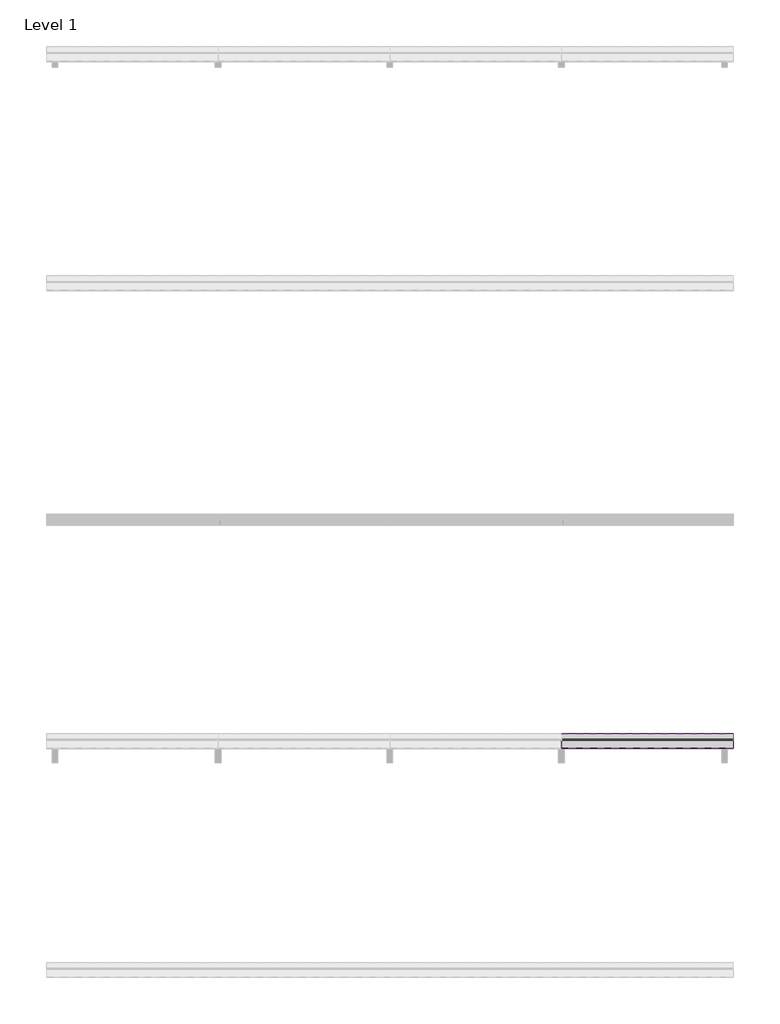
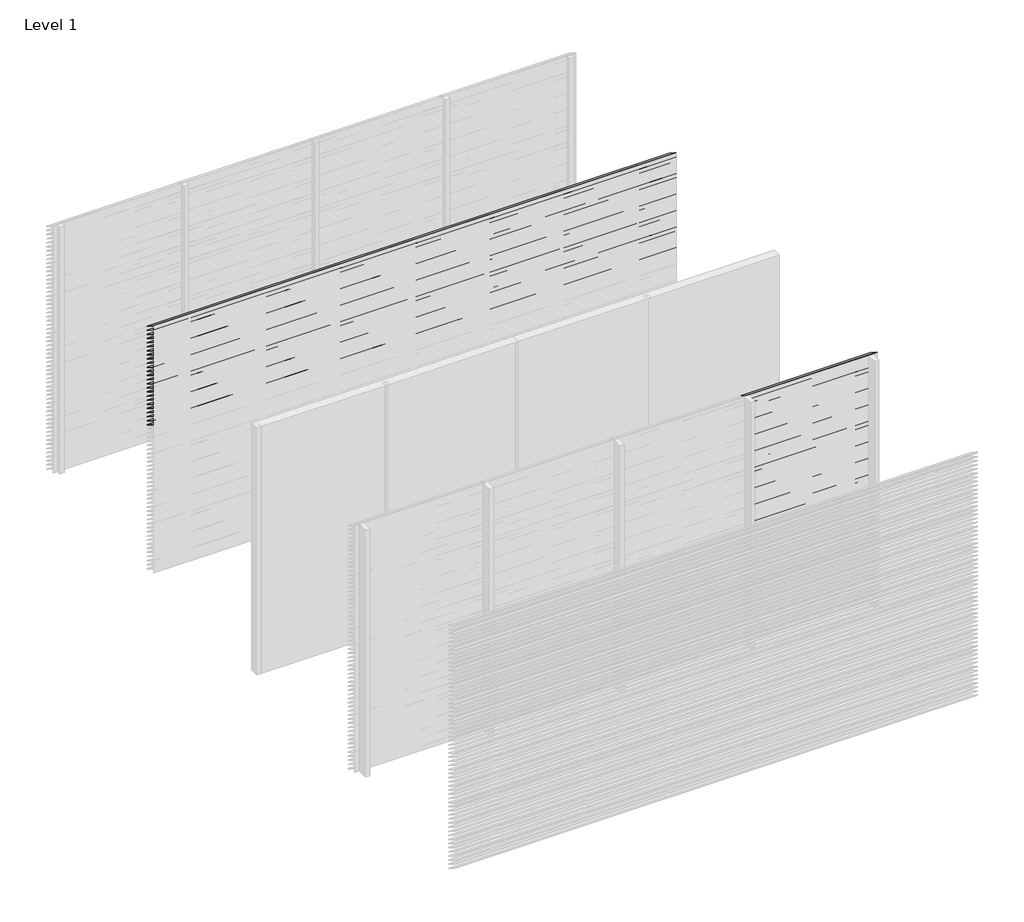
# One storey, part 4 of 13: 95 proxies.
"""IFC4 building model written with IfcOpenShell, lengths in millimetres."""

from ifc_helpers import new_model, si_unit, frame, origin, place, context, project, spatial, polyline, outline, extrude, element, save

model = new_model("IFC4")

# Units and contexts
model_context = context("Model", 3, world=origin())
ifc_project = project(units=[si_unit("LENGTHUNIT", "METRE", prefix="MILLI")], contexts=[model_context])

# Site, building, storey
site = spatial("IfcSite", under=ifc_project)
building = spatial("IfcBuilding", under=site)
storey = spatial("IfcBuildingStorey", under=building, Name="Level 1", Elevation=0.0)

# Proxies
placement = place(None, origin())
element("IfcBuildingElementProxy", 1, Name="Wall Sweeps", at=placement, inside=storey, context=model_context, shape_type="SweptSolid", body=[
    extrude(outline(polyline([(-13995.0, 3000.0), (-13995.0, 2998.0), (-13868.0, 2919.0), (-13868.0, 2913.0), (-13997.0, 2993.2440945), (-13997.0, 3000.0), (-13995.0, 3000.0)])), frame((0.0, 0.0, 0.0), z_axis=(1.0, 0.0, 0.0), x_axis=(0.0, 1.0, 0.0)), (0.0, 0.0, 1.0), 6000.0),
])
element("IfcBuildingElementProxy", 2, Name="Wall Sweeps", at=placement, inside=storey, context=model_context, shape_type="SweptSolid", body=[
    extrude(outline(polyline([(-13995.0, 2950.0), (-13995.0, 2948.0), (-13868.0, 2869.0), (-13868.0, 2863.0), (-13997.0, 2943.2440945), (-13997.0, 2950.0), (-13995.0, 2950.0)])), frame((0.0, 0.0, 0.0), z_axis=(1.0, 0.0, 0.0), x_axis=(0.0, 1.0, 0.0)), (0.0, 0.0, 1.0), 6000.0),
])
element("IfcBuildingElementProxy", 3, Name="Wall Sweeps", at=placement, inside=storey, context=model_context, shape_type="SweptSolid", body=[
    extrude(outline(polyline([(-13995.0, 2900.0), (-13995.0, 2898.0), (-13868.0, 2819.0), (-13868.0, 2813.0), (-13997.0, 2893.2440945), (-13997.0, 2900.0), (-13995.0, 2900.0)])), frame((0.0, 0.0, 0.0), z_axis=(1.0, 0.0, 0.0), x_axis=(0.0, 1.0, 0.0)), (0.0, 0.0, 1.0), 6000.0),
])
element("IfcBuildingElementProxy", 4, Name="Wall Sweeps", at=placement, inside=storey, context=model_context, shape_type="SweptSolid", body=[
    extrude(outline(polyline([(-13995.0, 2850.0), (-13995.0, 2848.0), (-13868.0, 2769.0), (-13868.0, 2763.0), (-13997.0, 2843.2440945), (-13997.0, 2850.0), (-13995.0, 2850.0)])), frame((0.0, 0.0, 0.0), z_axis=(1.0, 0.0, 0.0), x_axis=(0.0, 1.0, 0.0)), (0.0, 0.0, 1.0), 6000.0),
])
element("IfcBuildingElementProxy", 5, Name="Wall Sweeps", at=placement, inside=storey, context=model_context, shape_type="SweptSolid", body=[
    extrude(outline(polyline([(-13995.0, 2800.0), (-13995.0, 2798.0), (-13868.0, 2719.0), (-13868.0, 2713.0), (-13997.0, 2793.2440945), (-13997.0, 2800.0), (-13995.0, 2800.0)])), frame((0.0, 0.0, 0.0), z_axis=(1.0, 0.0, 0.0), x_axis=(0.0, 1.0, 0.0)), (0.0, 0.0, 1.0), 6000.0),
])
element("IfcBuildingElementProxy", 6, Name="Wall Sweeps", at=placement, inside=storey, context=model_context, shape_type="SweptSolid", body=[
    extrude(outline(polyline([(-13995.0, 2750.0), (-13995.0, 2748.0), (-13868.0, 2669.0), (-13868.0, 2663.0), (-13997.0, 2743.2440945), (-13997.0, 2750.0), (-13995.0, 2750.0)])), frame((0.0, 0.0, 0.0), z_axis=(1.0, 0.0, 0.0), x_axis=(0.0, 1.0, 0.0)), (0.0, 0.0, 1.0), 6000.0),
])
element("IfcBuildingElementProxy", 7, Name="Wall Sweeps", at=placement, inside=storey, context=model_context, shape_type="SweptSolid", body=[
    extrude(outline(polyline([(-13995.0, 2700.0), (-13995.0, 2698.0), (-13868.0, 2619.0), (-13868.0, 2613.0), (-13997.0, 2693.2440945), (-13997.0, 2700.0), (-13995.0, 2700.0)])), frame((0.0, 0.0, 0.0), z_axis=(1.0, 0.0, 0.0), x_axis=(0.0, 1.0, 0.0)), (0.0, 0.0, 1.0), 6000.0),
])
element("IfcBuildingElementProxy", 8, Name="Wall Sweeps", at=placement, inside=storey, context=model_context, shape_type="SweptSolid", body=[
    extrude(outline(polyline([(-13995.0, 2650.0), (-13995.0, 2648.0), (-13868.0, 2569.0), (-13868.0, 2563.0), (-13997.0, 2643.2440945), (-13997.0, 2650.0), (-13995.0, 2650.0)])), frame((0.0, 0.0, 0.0), z_axis=(1.0, 0.0, 0.0), x_axis=(0.0, 1.0, 0.0)), (0.0, 0.0, 1.0), 6000.0),
])
element("IfcBuildingElementProxy", 9, Name="Wall Sweeps", at=placement, inside=storey, context=model_context, shape_type="SweptSolid", body=[
    extrude(outline(polyline([(-13995.0, 2600.0), (-13995.0, 2598.0), (-13868.0, 2519.0), (-13868.0, 2513.0), (-13997.0, 2593.2440945), (-13997.0, 2600.0), (-13995.0, 2600.0)])), frame((0.0, 0.0, 0.0), z_axis=(1.0, 0.0, 0.0), x_axis=(0.0, 1.0, 0.0)), (0.0, 0.0, 1.0), 6000.0),
])
element("IfcBuildingElementProxy", 10, Name="Wall Sweeps", at=placement, inside=storey, context=model_context, shape_type="SweptSolid", body=[
    extrude(outline(polyline([(-13995.0, 2550.0), (-13995.0, 2548.0), (-13868.0, 2469.0), (-13868.0, 2463.0), (-13997.0, 2543.2440945), (-13997.0, 2550.0), (-13995.0, 2550.0)])), frame((0.0, 0.0, 0.0), z_axis=(1.0, 0.0, 0.0), x_axis=(0.0, 1.0, 0.0)), (0.0, 0.0, 1.0), 6000.0),
])
element("IfcBuildingElementProxy", 11, Name="Wall Sweeps", at=placement, inside=storey, context=model_context, shape_type="SweptSolid", body=[
    extrude(outline(polyline([(-13995.0, 2500.0), (-13995.0, 2498.0), (-13868.0, 2419.0), (-13868.0, 2413.0), (-13997.0, 2493.2440945), (-13997.0, 2500.0), (-13995.0, 2500.0)])), frame((0.0, 0.0, 0.0), z_axis=(1.0, 0.0, 0.0), x_axis=(0.0, 1.0, 0.0)), (0.0, 0.0, 1.0), 6000.0),
])
element("IfcBuildingElementProxy", 12, Name="Wall Sweeps", at=placement, inside=storey, context=model_context, shape_type="SweptSolid", body=[
    extrude(outline(polyline([(-13995.0, 2450.0), (-13995.0, 2448.0), (-13868.0, 2369.0), (-13868.0, 2363.0), (-13997.0, 2443.2440945), (-13997.0, 2450.0), (-13995.0, 2450.0)])), frame((0.0, 0.0, 0.0), z_axis=(1.0, 0.0, 0.0), x_axis=(0.0, 1.0, 0.0)), (0.0, 0.0, 1.0), 6000.0),
])
element("IfcBuildingElementProxy", 13, Name="Wall Sweeps", at=placement, inside=storey, context=model_context, shape_type="SweptSolid", body=[
    extrude(outline(polyline([(-13995.0, 2400.0), (-13995.0, 2398.0), (-13868.0, 2319.0), (-13868.0, 2313.0), (-13997.0, 2393.2440945), (-13997.0, 2400.0), (-13995.0, 2400.0)])), frame((0.0, 0.0, 0.0), z_axis=(1.0, 0.0, 0.0), x_axis=(0.0, 1.0, 0.0)), (0.0, 0.0, 1.0), 6000.0),
])
element("IfcBuildingElementProxy", 14, Name="Wall Sweeps", at=placement, inside=storey, context=model_context, shape_type="SweptSolid", body=[
    extrude(outline(polyline([(-13995.0, 2350.0), (-13995.0, 2348.0), (-13868.0, 2269.0), (-13868.0, 2263.0), (-13997.0, 2343.2440945), (-13997.0, 2350.0), (-13995.0, 2350.0)])), frame((0.0, 0.0, 0.0), z_axis=(1.0, 0.0, 0.0), x_axis=(0.0, 1.0, 0.0)), (0.0, 0.0, 1.0), 6000.0),
])
element("IfcBuildingElementProxy", 15, Name="Wall Sweeps", at=placement, inside=storey, context=model_context, shape_type="SweptSolid", body=[
    extrude(outline(polyline([(-13995.0, 2300.0), (-13995.0, 2298.0), (-13868.0, 2219.0), (-13868.0, 2213.0), (-13997.0, 2293.2440945), (-13997.0, 2300.0), (-13995.0, 2300.0)])), frame((0.0, 0.0, 0.0), z_axis=(1.0, 0.0, 0.0), x_axis=(0.0, 1.0, 0.0)), (0.0, 0.0, 1.0), 6000.0),
])
element("IfcBuildingElementProxy", 16, Name="Wall Sweeps", at=placement, inside=storey, context=model_context, shape_type="SweptSolid", body=[
    extrude(outline(polyline([(-13995.0, 2250.0), (-13995.0, 2248.0), (-13868.0, 2169.0), (-13868.0, 2163.0), (-13997.0, 2243.2440945), (-13997.0, 2250.0), (-13995.0, 2250.0)])), frame((0.0, 0.0, 0.0), z_axis=(1.0, 0.0, 0.0), x_axis=(0.0, 1.0, 0.0)), (0.0, 0.0, 1.0), 6000.0),
])
element("IfcBuildingElementProxy", 17, Name="Wall Sweeps", at=placement, inside=storey, context=model_context, shape_type="SweptSolid", body=[
    extrude(outline(polyline([(-13995.0, 2200.0), (-13995.0, 2198.0), (-13868.0, 2119.0), (-13868.0, 2113.0), (-13997.0, 2193.2440945), (-13997.0, 2200.0), (-13995.0, 2200.0)])), frame((0.0, 0.0, 0.0), z_axis=(1.0, 0.0, 0.0), x_axis=(0.0, 1.0, 0.0)), (0.0, 0.0, 1.0), 6000.0),
])
element("IfcBuildingElementProxy", 18, Name="Wall Sweeps", at=placement, inside=storey, context=model_context, shape_type="SweptSolid", body=[
    extrude(outline(polyline([(-13995.0, 2150.0), (-13995.0, 2148.0), (-13868.0, 2069.0), (-13868.0, 2063.0), (-13997.0, 2143.2440945), (-13997.0, 2150.0), (-13995.0, 2150.0)])), frame((0.0, 0.0, 0.0), z_axis=(1.0, 0.0, 0.0), x_axis=(0.0, 1.0, 0.0)), (0.0, 0.0, 1.0), 6000.0),
])
element("IfcBuildingElementProxy", 19, Name="Wall Sweeps", at=placement, inside=storey, context=model_context, shape_type="SweptSolid", body=[
    extrude(outline(polyline([(-13995.0, 2100.0), (-13995.0, 2098.0), (-13868.0, 2019.0), (-13868.0, 2013.0), (-13997.0, 2093.2440945), (-13997.0, 2100.0), (-13995.0, 2100.0)])), frame((0.0, 0.0, 0.0), z_axis=(1.0, 0.0, 0.0), x_axis=(0.0, 1.0, 0.0)), (0.0, 0.0, 1.0), 6000.0),
])
element("IfcBuildingElementProxy", 20, Name="Wall Sweeps", at=placement, inside=storey, context=model_context, shape_type="SweptSolid", body=[
    extrude(outline(polyline([(-13995.0, 2050.0), (-13995.0, 2048.0), (-13868.0, 1969.0), (-13868.0, 1963.0), (-13997.0, 2043.2440945), (-13997.0, 2050.0), (-13995.0, 2050.0)])), frame((0.0, 0.0, 0.0), z_axis=(1.0, 0.0, 0.0), x_axis=(0.0, 1.0, 0.0)), (0.0, 0.0, 1.0), 6000.0),
])
element("IfcBuildingElementProxy", 21, Name="Wall Sweeps", at=placement, inside=storey, context=model_context, shape_type="SweptSolid", body=[
    extrude(outline(polyline([(-13995.0, 2000.0), (-13995.0, 1998.0), (-13868.0, 1919.0), (-13868.0, 1913.0), (-13997.0, 1993.2440945), (-13997.0, 2000.0), (-13995.0, 2000.0)])), frame((0.0, 0.0, 0.0), z_axis=(1.0, 0.0, 0.0), x_axis=(0.0, 1.0, 0.0)), (0.0, 0.0, 1.0), 6000.0),
])
element("IfcBuildingElementProxy", 22, Name="Wall Sweeps", at=placement, inside=storey, context=model_context, shape_type="SweptSolid", body=[
    extrude(outline(polyline([(-13995.0, 1950.0), (-13995.0, 1948.0), (-13868.0, 1869.0), (-13868.0, 1863.0), (-13997.0, 1943.2440945), (-13997.0, 1950.0), (-13995.0, 1950.0)])), frame((0.0, 0.0, 0.0), z_axis=(1.0, 0.0, 0.0), x_axis=(0.0, 1.0, 0.0)), (0.0, 0.0, 1.0), 6000.0),
])
element("IfcBuildingElementProxy", 23, Name="Wall Sweeps", at=placement, inside=storey, context=model_context, shape_type="SweptSolid", body=[
    extrude(outline(polyline([(-13995.0, 1900.0), (-13995.0, 1898.0), (-13868.0, 1819.0), (-13868.0, 1813.0), (-13997.0, 1893.2440945), (-13997.0, 1900.0), (-13995.0, 1900.0)])), frame((0.0, 0.0, 0.0), z_axis=(1.0, 0.0, 0.0), x_axis=(0.0, 1.0, 0.0)), (0.0, 0.0, 1.0), 6000.0),
])
element("IfcBuildingElementProxy", 24, Name="Wall Sweeps", at=placement, inside=storey, context=model_context, shape_type="SweptSolid", body=[
    extrude(outline(polyline([(-13995.0, 1850.0), (-13995.0, 1848.0), (-13868.0, 1769.0), (-13868.0, 1763.0), (-13997.0, 1843.2440945), (-13997.0, 1850.0), (-13995.0, 1850.0)])), frame((0.0, 0.0, 0.0), z_axis=(1.0, 0.0, 0.0), x_axis=(0.0, 1.0, 0.0)), (0.0, 0.0, 1.0), 6000.0),
])
element("IfcBuildingElementProxy", 25, Name="Wall Sweeps", at=placement, inside=storey, context=model_context, shape_type="SweptSolid", body=[
    extrude(outline(polyline([(-13995.0, 1800.0), (-13995.0, 1798.0), (-13868.0, 1719.0), (-13868.0, 1713.0), (-13997.0, 1793.2440945), (-13997.0, 1800.0), (-13995.0, 1800.0)])), frame((0.0, 0.0, 0.0), z_axis=(1.0, 0.0, 0.0), x_axis=(0.0, 1.0, 0.0)), (0.0, 0.0, 1.0), 6000.0),
])
element("IfcBuildingElementProxy", 26, Name="Wall Sweeps", at=placement, inside=storey, context=model_context, shape_type="SweptSolid", body=[
    extrude(outline(polyline([(-17995.0, 3000.0), (-17995.0, 2998.0), (-17868.0, 2919.0), (-17868.0, 2913.0), (-17997.0, 2993.2440945), (-17997.0, 3000.0), (-17995.0, 3000.0)])), frame((4499.9999998, 0.0, 0.0), z_axis=(1.0, 0.0, 0.0), x_axis=(0.0, 1.0, 0.0)), (0.0, 0.0, 1.0), 1500.0000002),
])
element("IfcBuildingElementProxy", 27, Name="Wall Sweeps", at=placement, inside=storey, context=model_context, shape_type="SweptSolid", body=[
    extrude(outline(polyline([(-17995.0, 2950.0), (-17995.0, 2948.0), (-17868.0, 2869.0), (-17868.0, 2863.0), (-17997.0, 2943.2440945), (-17997.0, 2950.0), (-17995.0, 2950.0)])), frame((4499.9999998, 0.0, 0.0), z_axis=(1.0, 0.0, 0.0), x_axis=(0.0, 1.0, 0.0)), (0.0, 0.0, 1.0), 1500.0000002),
])
element("IfcBuildingElementProxy", 28, Name="Wall Sweeps", at=placement, inside=storey, context=model_context, shape_type="SweptSolid", body=[
    extrude(outline(polyline([(-17995.0, 2900.0), (-17995.0, 2898.0), (-17868.0, 2819.0), (-17868.0, 2813.0), (-17997.0, 2893.2440945), (-17997.0, 2900.0), (-17995.0, 2900.0)])), frame((4499.9999998, 0.0, 0.0), z_axis=(1.0, 0.0, 0.0), x_axis=(0.0, 1.0, 0.0)), (0.0, 0.0, 1.0), 1500.0000002),
])
element("IfcBuildingElementProxy", 29, Name="Wall Sweeps", at=placement, inside=storey, context=model_context, shape_type="SweptSolid", body=[
    extrude(outline(polyline([(-17995.0, 2850.0), (-17995.0, 2848.0), (-17868.0, 2769.0), (-17868.0, 2763.0), (-17997.0, 2843.2440945), (-17997.0, 2850.0), (-17995.0, 2850.0)])), frame((4499.9999998, 0.0, 0.0), z_axis=(1.0, 0.0, 0.0), x_axis=(0.0, 1.0, 0.0)), (0.0, 0.0, 1.0), 1500.0000002),
])
element("IfcBuildingElementProxy", 30, Name="Wall Sweeps", at=placement, inside=storey, context=model_context, shape_type="SweptSolid", body=[
    extrude(outline(polyline([(-17995.0, 2800.0), (-17995.0, 2798.0), (-17868.0, 2719.0), (-17868.0, 2713.0), (-17997.0, 2793.2440945), (-17997.0, 2800.0), (-17995.0, 2800.0)])), frame((4499.9999998, 0.0, 0.0), z_axis=(1.0, 0.0, 0.0), x_axis=(0.0, 1.0, 0.0)), (0.0, 0.0, 1.0), 1500.0000002),
])
element("IfcBuildingElementProxy", 31, Name="Wall Sweeps", at=placement, inside=storey, context=model_context, shape_type="SweptSolid", body=[
    extrude(outline(polyline([(-17995.0, 2750.0), (-17995.0, 2748.0), (-17868.0, 2669.0), (-17868.0, 2663.0), (-17997.0, 2743.2440945), (-17997.0, 2750.0), (-17995.0, 2750.0)])), frame((4499.9999998, 0.0, 0.0), z_axis=(1.0, 0.0, 0.0), x_axis=(0.0, 1.0, 0.0)), (0.0, 0.0, 1.0), 1500.0000002),
])
element("IfcBuildingElementProxy", 32, Name="Wall Sweeps", at=placement, inside=storey, context=model_context, shape_type="SweptSolid", body=[
    extrude(outline(polyline([(-17995.0, 2700.0), (-17995.0, 2698.0), (-17868.0, 2619.0), (-17868.0, 2613.0), (-17997.0, 2693.2440945), (-17997.0, 2700.0), (-17995.0, 2700.0)])), frame((4499.9999998, 0.0, 0.0), z_axis=(1.0, 0.0, 0.0), x_axis=(0.0, 1.0, 0.0)), (0.0, 0.0, 1.0), 1500.0000002),
])
element("IfcBuildingElementProxy", 33, Name="Wall Sweeps", at=placement, inside=storey, context=model_context, shape_type="SweptSolid", body=[
    extrude(outline(polyline([(-17995.0, 2650.0), (-17995.0, 2648.0), (-17868.0, 2569.0), (-17868.0, 2563.0), (-17997.0, 2643.2440945), (-17997.0, 2650.0), (-17995.0, 2650.0)])), frame((4499.9999998, 0.0, 0.0), z_axis=(1.0, 0.0, 0.0), x_axis=(0.0, 1.0, 0.0)), (0.0, 0.0, 1.0), 1500.0000002),
])
element("IfcBuildingElementProxy", 34, Name="Wall Sweeps", at=placement, inside=storey, context=model_context, shape_type="SweptSolid", body=[
    extrude(outline(polyline([(-17995.0, 2600.0), (-17995.0, 2598.0), (-17868.0, 2519.0), (-17868.0, 2513.0), (-17997.0, 2593.2440945), (-17997.0, 2600.0), (-17995.0, 2600.0)])), frame((4499.9999998, 0.0, 0.0), z_axis=(1.0, 0.0, 0.0), x_axis=(0.0, 1.0, 0.0)), (0.0, 0.0, 1.0), 1500.0000002),
])
element("IfcBuildingElementProxy", 35, Name="Wall Sweeps", at=placement, inside=storey, context=model_context, shape_type="SweptSolid", body=[
    extrude(outline(polyline([(-17995.0, 2550.0), (-17995.0, 2548.0), (-17868.0, 2469.0), (-17868.0, 2463.0), (-17997.0, 2543.2440945), (-17997.0, 2550.0), (-17995.0, 2550.0)])), frame((4499.9999998, 0.0, 0.0), z_axis=(1.0, 0.0, 0.0), x_axis=(0.0, 1.0, 0.0)), (0.0, 0.0, 1.0), 1500.0000002),
])
element("IfcBuildingElementProxy", 36, Name="Wall Sweeps", at=placement, inside=storey, context=model_context, shape_type="SweptSolid", body=[
    extrude(outline(polyline([(-17995.0, 2500.0), (-17995.0, 2498.0), (-17868.0, 2419.0), (-17868.0, 2413.0), (-17997.0, 2493.2440945), (-17997.0, 2500.0), (-17995.0, 2500.0)])), frame((4499.9999998, 0.0, 0.0), z_axis=(1.0, 0.0, 0.0), x_axis=(0.0, 1.0, 0.0)), (0.0, 0.0, 1.0), 1500.0000002),
])
element("IfcBuildingElementProxy", 37, Name="Wall Sweeps", at=placement, inside=storey, context=model_context, shape_type="SweptSolid", body=[
    extrude(outline(polyline([(-17995.0, 2450.0), (-17995.0, 2448.0), (-17868.0, 2369.0), (-17868.0, 2363.0), (-17997.0, 2443.2440945), (-17997.0, 2450.0), (-17995.0, 2450.0)])), frame((4499.9999998, 0.0, 0.0), z_axis=(1.0, 0.0, 0.0), x_axis=(0.0, 1.0, 0.0)), (0.0, 0.0, 1.0), 1500.0000002),
])
element("IfcBuildingElementProxy", 38, Name="Wall Sweeps", at=placement, inside=storey, context=model_context, shape_type="SweptSolid", body=[
    extrude(outline(polyline([(-17995.0, 2400.0), (-17995.0, 2398.0), (-17868.0, 2319.0), (-17868.0, 2313.0), (-17997.0, 2393.2440945), (-17997.0, 2400.0), (-17995.0, 2400.0)])), frame((4499.9999998, 0.0, 0.0), z_axis=(1.0, 0.0, 0.0), x_axis=(0.0, 1.0, 0.0)), (0.0, 0.0, 1.0), 1500.0000002),
])
element("IfcBuildingElementProxy", 39, Name="Wall Sweeps", at=placement, inside=storey, context=model_context, shape_type="SweptSolid", body=[
    extrude(outline(polyline([(-17995.0, 2350.0), (-17995.0, 2348.0), (-17868.0, 2269.0), (-17868.0, 2263.0), (-17997.0, 2343.2440945), (-17997.0, 2350.0), (-17995.0, 2350.0)])), frame((4499.9999998, 0.0, 0.0), z_axis=(1.0, 0.0, 0.0), x_axis=(0.0, 1.0, 0.0)), (0.0, 0.0, 1.0), 1500.0000002),
])
element("IfcBuildingElementProxy", 40, Name="Wall Sweeps", at=placement, inside=storey, context=model_context, shape_type="SweptSolid", body=[
    extrude(outline(polyline([(-17995.0, 2300.0), (-17995.0, 2298.0), (-17868.0, 2219.0), (-17868.0, 2213.0), (-17997.0, 2293.2440945), (-17997.0, 2300.0), (-17995.0, 2300.0)])), frame((4499.9999998, 0.0, 0.0), z_axis=(1.0, 0.0, 0.0), x_axis=(0.0, 1.0, 0.0)), (0.0, 0.0, 1.0), 1500.0000002),
])
element("IfcBuildingElementProxy", 41, Name="Wall Sweeps", at=placement, inside=storey, context=model_context, shape_type="SweptSolid", body=[
    extrude(outline(polyline([(-17995.0, 2250.0), (-17995.0, 2248.0), (-17868.0, 2169.0), (-17868.0, 2163.0), (-17997.0, 2243.2440945), (-17997.0, 2250.0), (-17995.0, 2250.0)])), frame((4499.9999998, 0.0, 0.0), z_axis=(1.0, 0.0, 0.0), x_axis=(0.0, 1.0, 0.0)), (0.0, 0.0, 1.0), 1500.0000002),
])
element("IfcBuildingElementProxy", 42, Name="Wall Sweeps", at=placement, inside=storey, context=model_context, shape_type="SweptSolid", body=[
    extrude(outline(polyline([(-17995.0, 2200.0), (-17995.0, 2198.0), (-17868.0, 2119.0), (-17868.0, 2113.0), (-17997.0, 2193.2440945), (-17997.0, 2200.0), (-17995.0, 2200.0)])), frame((4499.9999998, 0.0, 0.0), z_axis=(1.0, 0.0, 0.0), x_axis=(0.0, 1.0, 0.0)), (0.0, 0.0, 1.0), 1500.0000002),
])
element("IfcBuildingElementProxy", 43, Name="Wall Sweeps", at=placement, inside=storey, context=model_context, shape_type="SweptSolid", body=[
    extrude(outline(polyline([(-17995.0, 2150.0), (-17995.0, 2148.0), (-17868.0, 2069.0), (-17868.0, 2063.0), (-17997.0, 2143.2440945), (-17997.0, 2150.0), (-17995.0, 2150.0)])), frame((4499.9999998, 0.0, 0.0), z_axis=(1.0, 0.0, 0.0), x_axis=(0.0, 1.0, 0.0)), (0.0, 0.0, 1.0), 1500.0000002),
])
element("IfcBuildingElementProxy", 44, Name="Wall Sweeps", at=placement, inside=storey, context=model_context, shape_type="SweptSolid", body=[
    extrude(outline(polyline([(-17995.0, 2100.0), (-17995.0, 2098.0), (-17868.0, 2019.0), (-17868.0, 2013.0), (-17997.0, 2093.2440945), (-17997.0, 2100.0), (-17995.0, 2100.0)])), frame((4499.9999998, 0.0, 0.0), z_axis=(1.0, 0.0, 0.0), x_axis=(0.0, 1.0, 0.0)), (0.0, 0.0, 1.0), 1500.0000002),
])
element("IfcBuildingElementProxy", 45, Name="Wall Sweeps", at=placement, inside=storey, context=model_context, shape_type="SweptSolid", body=[
    extrude(outline(polyline([(-17995.0, 2050.0), (-17995.0, 2048.0), (-17868.0, 1969.0), (-17868.0, 1963.0), (-17997.0, 2043.2440945), (-17997.0, 2050.0), (-17995.0, 2050.0)])), frame((4499.9999998, 0.0, 0.0), z_axis=(1.0, 0.0, 0.0), x_axis=(0.0, 1.0, 0.0)), (0.0, 0.0, 1.0), 1500.0000002),
])
element("IfcBuildingElementProxy", 46, Name="Wall Sweeps", at=placement, inside=storey, context=model_context, shape_type="SweptSolid", body=[
    extrude(outline(polyline([(-17995.0, 2000.0), (-17995.0, 1998.0), (-17868.0, 1919.0), (-17868.0, 1913.0), (-17997.0, 1993.2440945), (-17997.0, 2000.0), (-17995.0, 2000.0)])), frame((4499.9999998, 0.0, 0.0), z_axis=(1.0, 0.0, 0.0), x_axis=(0.0, 1.0, 0.0)), (0.0, 0.0, 1.0), 1500.0000002),
])
element("IfcBuildingElementProxy", 47, Name="Wall Sweeps", at=placement, inside=storey, context=model_context, shape_type="SweptSolid", body=[
    extrude(outline(polyline([(-17995.0, 1950.0), (-17995.0, 1948.0), (-17868.0, 1869.0), (-17868.0, 1863.0), (-17997.0, 1943.2440945), (-17997.0, 1950.0), (-17995.0, 1950.0)])), frame((4499.9999998, 0.0, 0.0), z_axis=(1.0, 0.0, 0.0), x_axis=(0.0, 1.0, 0.0)), (0.0, 0.0, 1.0), 1500.0000002),
])
element("IfcBuildingElementProxy", 48, Name="Wall Sweeps", at=placement, inside=storey, context=model_context, shape_type="SweptSolid", body=[
    extrude(outline(polyline([(-17995.0, 1900.0), (-17995.0, 1898.0), (-17868.0, 1819.0), (-17868.0, 1813.0), (-17997.0, 1893.2440945), (-17997.0, 1900.0), (-17995.0, 1900.0)])), frame((4499.9999998, 0.0, 0.0), z_axis=(1.0, 0.0, 0.0), x_axis=(0.0, 1.0, 0.0)), (0.0, 0.0, 1.0), 1500.0000002),
])
element("IfcBuildingElementProxy", 49, Name="Wall Sweeps", at=placement, inside=storey, context=model_context, shape_type="SweptSolid", body=[
    extrude(outline(polyline([(-17995.0, 1850.0), (-17995.0, 1848.0), (-17868.0, 1769.0), (-17868.0, 1763.0), (-17997.0, 1843.2440945), (-17997.0, 1850.0), (-17995.0, 1850.0)])), frame((4499.9999998, 0.0, 0.0), z_axis=(1.0, 0.0, 0.0), x_axis=(0.0, 1.0, 0.0)), (0.0, 0.0, 1.0), 1500.0000002),
])
element("IfcBuildingElementProxy", 50, Name="Wall Sweeps", at=placement, inside=storey, context=model_context, shape_type="SweptSolid", body=[
    extrude(outline(polyline([(-17995.0, 1800.0), (-17995.0, 1798.0), (-17868.0, 1719.0), (-17868.0, 1713.0), (-17997.0, 1793.2440945), (-17997.0, 1800.0), (-17995.0, 1800.0)])), frame((4499.9999998, 0.0, 0.0), z_axis=(1.0, 0.0, 0.0), x_axis=(0.0, 1.0, 0.0)), (0.0, 0.0, 1.0), 1500.0000002),
])
element("IfcBuildingElementProxy", 51, Name="Wall Sweeps", at=placement, inside=storey, context=model_context, shape_type="SweptSolid", body=[
    extrude(outline(polyline([(-17995.0, 1750.0), (-17995.0, 1748.0), (-17868.0, 1669.0), (-17868.0, 1663.0), (-17997.0, 1743.2440945), (-17997.0, 1750.0), (-17995.0, 1750.0)])), frame((4499.9999998, 0.0, 0.0), z_axis=(1.0, 0.0, 0.0), x_axis=(0.0, 1.0, 0.0)), (0.0, 0.0, 1.0), 1500.0000002),
])
element("IfcBuildingElementProxy", 52, Name="Wall Sweeps", at=placement, inside=storey, context=model_context, shape_type="SweptSolid", body=[
    extrude(outline(polyline([(-17995.0, 1700.0), (-17995.0, 1698.0), (-17868.0, 1619.0), (-17868.0, 1613.0), (-17997.0, 1693.2440945), (-17997.0, 1700.0), (-17995.0, 1700.0)])), frame((4499.9999998, 0.0, 0.0), z_axis=(1.0, 0.0, 0.0), x_axis=(0.0, 1.0, 0.0)), (0.0, 0.0, 1.0), 1500.0000002),
])
element("IfcBuildingElementProxy", 53, Name="Wall Sweeps", at=placement, inside=storey, context=model_context, shape_type="SweptSolid", body=[
    extrude(outline(polyline([(-17995.0, 1650.0), (-17995.0, 1648.0), (-17868.0, 1569.0), (-17868.0, 1563.0), (-17997.0, 1643.2440945), (-17997.0, 1650.0), (-17995.0, 1650.0)])), frame((4499.9999998, 0.0, 0.0), z_axis=(1.0, 0.0, 0.0), x_axis=(0.0, 1.0, 0.0)), (0.0, 0.0, 1.0), 1500.0000002),
])
element("IfcBuildingElementProxy", 54, Name="Wall Sweeps", at=placement, inside=storey, context=model_context, shape_type="SweptSolid", body=[
    extrude(outline(polyline([(-17995.0, 1600.0), (-17995.0, 1598.0), (-17868.0, 1519.0), (-17868.0, 1513.0), (-17997.0, 1593.2440945), (-17997.0, 1600.0), (-17995.0, 1600.0)])), frame((4499.9999998, 0.0, 0.0), z_axis=(1.0, 0.0, 0.0), x_axis=(0.0, 1.0, 0.0)), (0.0, 0.0, 1.0), 1500.0000002),
])
element("IfcBuildingElementProxy", 55, Name="Wall Sweeps", at=placement, inside=storey, context=model_context, shape_type="SweptSolid", body=[
    extrude(outline(polyline([(-17995.0, 1550.0), (-17995.0, 1548.0), (-17868.0, 1469.0), (-17868.0, 1463.0), (-17997.0, 1543.2440945), (-17997.0, 1550.0), (-17995.0, 1550.0)])), frame((4499.9999998, 0.0, 0.0), z_axis=(1.0, 0.0, 0.0), x_axis=(0.0, 1.0, 0.0)), (0.0, 0.0, 1.0), 1500.0000002),
])
element("IfcBuildingElementProxy", 56, Name="Wall Sweeps", at=placement, inside=storey, context=model_context, shape_type="SweptSolid", body=[
    extrude(outline(polyline([(-17995.0, 1500.0), (-17995.0, 1498.0), (-17868.0, 1419.0), (-17868.0, 1413.0), (-17997.0, 1493.2440945), (-17997.0, 1500.0), (-17995.0, 1500.0)])), frame((4499.9999998, 0.0, 0.0), z_axis=(1.0, 0.0, 0.0), x_axis=(0.0, 1.0, 0.0)), (0.0, 0.0, 1.0), 1500.0000002),
])
element("IfcBuildingElementProxy", 57, Name="Wall Sweeps", at=placement, inside=storey, context=model_context, shape_type="SweptSolid", body=[
    extrude(outline(polyline([(-17995.0, 1450.0), (-17995.0, 1448.0), (-17868.0, 1369.0), (-17868.0, 1363.0), (-17997.0, 1443.2440945), (-17997.0, 1450.0), (-17995.0, 1450.0)])), frame((4499.9999998, 0.0, 0.0), z_axis=(1.0, 0.0, 0.0), x_axis=(0.0, 1.0, 0.0)), (0.0, 0.0, 1.0), 1500.0000002),
])
element("IfcBuildingElementProxy", 58, Name="Wall Sweeps", at=placement, inside=storey, context=model_context, shape_type="SweptSolid", body=[
    extrude(outline(polyline([(-17995.0, 1400.0), (-17995.0, 1398.0), (-17868.0, 1319.0), (-17868.0, 1313.0), (-17997.0, 1393.2440945), (-17997.0, 1400.0), (-17995.0, 1400.0)])), frame((4499.9999998, 0.0, 0.0), z_axis=(1.0, 0.0, 0.0), x_axis=(0.0, 1.0, 0.0)), (0.0, 0.0, 1.0), 1500.0000002),
])
element("IfcBuildingElementProxy", 59, Name="Wall Sweeps", at=placement, inside=storey, context=model_context, shape_type="SweptSolid", body=[
    extrude(outline(polyline([(-17995.0, 1350.0), (-17995.0, 1348.0), (-17868.0, 1269.0), (-17868.0, 1263.0), (-17997.0, 1343.2440945), (-17997.0, 1350.0), (-17995.0, 1350.0)])), frame((4499.9999998, 0.0, 0.0), z_axis=(1.0, 0.0, 0.0), x_axis=(0.0, 1.0, 0.0)), (0.0, 0.0, 1.0), 1500.0000002),
])
element("IfcBuildingElementProxy", 60, Name="Wall Sweeps", at=placement, inside=storey, context=model_context, shape_type="SweptSolid", body=[
    extrude(outline(polyline([(-17995.0, 1300.0), (-17995.0, 1298.0), (-17868.0, 1219.0), (-17868.0, 1213.0), (-17997.0, 1293.2440945), (-17997.0, 1300.0), (-17995.0, 1300.0)])), frame((4499.9999998, 0.0, 0.0), z_axis=(1.0, 0.0, 0.0), x_axis=(0.0, 1.0, 0.0)), (0.0, 0.0, 1.0), 1500.0000002),
])
element("IfcBuildingElementProxy", 61, Name="Wall Sweeps", at=placement, inside=storey, context=model_context, shape_type="SweptSolid", body=[
    extrude(outline(polyline([(-17995.0, 1250.0), (-17995.0, 1248.0), (-17868.0, 1169.0), (-17868.0, 1163.0), (-17997.0, 1243.2440945), (-17997.0, 1250.0), (-17995.0, 1250.0)])), frame((4499.9999998, 0.0, 0.0), z_axis=(1.0, 0.0, 0.0), x_axis=(0.0, 1.0, 0.0)), (0.0, 0.0, 1.0), 1500.0000002),
])
element("IfcBuildingElementProxy", 62, Name="Wall Sweeps", at=placement, inside=storey, context=model_context, shape_type="SweptSolid", body=[
    extrude(outline(polyline([(-17995.0, 1200.0), (-17995.0, 1198.0), (-17868.0, 1119.0), (-17868.0, 1113.0), (-17997.0, 1193.2440945), (-17997.0, 1200.0), (-17995.0, 1200.0)])), frame((4499.9999998, 0.0, 0.0), z_axis=(1.0, 0.0, 0.0), x_axis=(0.0, 1.0, 0.0)), (0.0, 0.0, 1.0), 1500.0000002),
])
element("IfcBuildingElementProxy", 63, Name="Wall Sweeps", at=placement, inside=storey, context=model_context, shape_type="SweptSolid", body=[
    extrude(outline(polyline([(-17995.0, 1150.0), (-17995.0, 1148.0), (-17868.0, 1069.0), (-17868.0, 1063.0), (-17997.0, 1143.2440945), (-17997.0, 1150.0), (-17995.0, 1150.0)])), frame((4499.9999998, 0.0, 0.0), z_axis=(1.0, 0.0, 0.0), x_axis=(0.0, 1.0, 0.0)), (0.0, 0.0, 1.0), 1500.0000002),
])
element("IfcBuildingElementProxy", 64, Name="Wall Sweeps", at=placement, inside=storey, context=model_context, shape_type="SweptSolid", body=[
    extrude(outline(polyline([(-17995.0, 1100.0), (-17995.0, 1098.0), (-17868.0, 1019.0), (-17868.0, 1013.0), (-17997.0, 1093.2440945), (-17997.0, 1100.0), (-17995.0, 1100.0)])), frame((4499.9999998, 0.0, 0.0), z_axis=(1.0, 0.0, 0.0), x_axis=(0.0, 1.0, 0.0)), (0.0, 0.0, 1.0), 1500.0000002),
])
element("IfcBuildingElementProxy", 65, Name="Wall Sweeps", at=placement, inside=storey, context=model_context, shape_type="SweptSolid", body=[
    extrude(outline(polyline([(-17995.0, 1050.0), (-17995.0, 1048.0), (-17868.0, 969.0), (-17868.0, 963.0), (-17997.0, 1043.2440945), (-17997.0, 1050.0), (-17995.0, 1050.0)])), frame((4499.9999998, 0.0, 0.0), z_axis=(1.0, 0.0, 0.0), x_axis=(0.0, 1.0, 0.0)), (0.0, 0.0, 1.0), 1500.0000002),
])
element("IfcBuildingElementProxy", 66, Name="Wall Sweeps", at=placement, inside=storey, context=model_context, shape_type="SweptSolid", body=[
    extrude(outline(polyline([(-17995.0, 1000.0), (-17995.0, 998.0), (-17868.0, 919.0), (-17868.0, 913.0), (-17997.0, 993.2440945), (-17997.0, 1000.0), (-17995.0, 1000.0)])), frame((4499.9999998, 0.0, 0.0), z_axis=(1.0, 0.0, 0.0), x_axis=(0.0, 1.0, 0.0)), (0.0, 0.0, 1.0), 1500.0000002),
])
element("IfcBuildingElementProxy", 67, Name="Wall Sweeps", at=placement, inside=storey, context=model_context, shape_type="SweptSolid", body=[
    extrude(outline(polyline([(-17995.0, 950.0), (-17995.0, 948.0), (-17868.0, 869.0), (-17868.0, 863.0), (-17997.0, 943.2440945), (-17997.0, 950.0), (-17995.0, 950.0)])), frame((4499.9999998, 0.0, 0.0), z_axis=(1.0, 0.0, 0.0), x_axis=(0.0, 1.0, 0.0)), (0.0, 0.0, 1.0), 1500.0000002),
])
element("IfcBuildingElementProxy", 68, Name="Wall Sweeps", at=placement, inside=storey, context=model_context, shape_type="SweptSolid", body=[
    extrude(outline(polyline([(-17995.0, 900.0), (-17995.0, 898.0), (-17868.0, 819.0), (-17868.0, 813.0), (-17997.0, 893.2440945), (-17997.0, 900.0), (-17995.0, 900.0)])), frame((4499.9999998, 0.0, 0.0), z_axis=(1.0, 0.0, 0.0), x_axis=(0.0, 1.0, 0.0)), (0.0, 0.0, 1.0), 1500.0000002),
])
element("IfcBuildingElementProxy", 69, Name="Wall Sweeps", at=placement, inside=storey, context=model_context, shape_type="SweptSolid", body=[
    extrude(outline(polyline([(-17995.0, 850.0), (-17995.0, 848.0), (-17868.0, 769.0), (-17868.0, 763.0), (-17997.0, 843.2440945), (-17997.0, 850.0), (-17995.0, 850.0)])), frame((4499.9999998, 0.0, 0.0), z_axis=(1.0, 0.0, 0.0), x_axis=(0.0, 1.0, 0.0)), (0.0, 0.0, 1.0), 1500.0000002),
])
element("IfcBuildingElementProxy", 70, Name="Wall Sweeps", at=placement, inside=storey, context=model_context, shape_type="SweptSolid", body=[
    extrude(outline(polyline([(-17995.0, 800.0), (-17995.0, 798.0), (-17868.0, 719.0), (-17868.0, 713.0), (-17997.0, 793.2440945), (-17997.0, 800.0), (-17995.0, 800.0)])), frame((4499.9999998, 0.0, 0.0), z_axis=(1.0, 0.0, 0.0), x_axis=(0.0, 1.0, 0.0)), (0.0, 0.0, 1.0), 1500.0000002),
])
element("IfcBuildingElementProxy", 71, Name="Wall Sweeps", at=placement, inside=storey, context=model_context, shape_type="SweptSolid", body=[
    extrude(outline(polyline([(-17995.0, 750.0), (-17995.0, 748.0), (-17868.0, 669.0), (-17868.0, 663.0), (-17997.0, 743.2440945), (-17997.0, 750.0), (-17995.0, 750.0)])), frame((4499.9999998, 0.0, 0.0), z_axis=(1.0, 0.0, 0.0), x_axis=(0.0, 1.0, 0.0)), (0.0, 0.0, 1.0), 1500.0000002),
])
element("IfcBuildingElementProxy", 72, Name="Wall Sweeps", at=placement, inside=storey, context=model_context, shape_type="SweptSolid", body=[
    extrude(outline(polyline([(-17995.0, 700.0), (-17995.0, 698.0), (-17868.0, 619.0), (-17868.0, 613.0), (-17997.0, 693.2440945), (-17997.0, 700.0), (-17995.0, 700.0)])), frame((4499.9999998, 0.0, 0.0), z_axis=(1.0, 0.0, 0.0), x_axis=(0.0, 1.0, 0.0)), (0.0, 0.0, 1.0), 1500.0000002),
])
element("IfcBuildingElementProxy", 73, Name="Wall Sweeps", at=placement, inside=storey, context=model_context, shape_type="SweptSolid", body=[
    extrude(outline(polyline([(-17995.0, 650.0), (-17995.0, 648.0), (-17868.0, 569.0), (-17868.0, 563.0), (-17997.0, 643.2440945), (-17997.0, 650.0), (-17995.0, 650.0)])), frame((4499.9999998, 0.0, 0.0), z_axis=(1.0, 0.0, 0.0), x_axis=(0.0, 1.0, 0.0)), (0.0, 0.0, 1.0), 1500.0000002),
])
element("IfcBuildingElementProxy", 74, Name="Wall Sweeps", at=placement, inside=storey, context=model_context, shape_type="SweptSolid", body=[
    extrude(outline(polyline([(-17995.0, 600.0), (-17995.0, 598.0), (-17868.0, 519.0), (-17868.0, 513.0), (-17997.0, 593.2440945), (-17997.0, 600.0), (-17995.0, 600.0)])), frame((4499.9999998, 0.0, 0.0), z_axis=(1.0, 0.0, 0.0), x_axis=(0.0, 1.0, 0.0)), (0.0, 0.0, 1.0), 1500.0000002),
])
element("IfcBuildingElementProxy", 75, Name="Wall Sweeps", at=placement, inside=storey, context=model_context, shape_type="SweptSolid", body=[
    extrude(outline(polyline([(-17995.0, 550.0), (-17995.0, 548.0), (-17868.0, 469.0), (-17868.0, 463.0), (-17997.0, 543.2440945), (-17997.0, 550.0), (-17995.0, 550.0)])), frame((4499.9999998, 0.0, 0.0), z_axis=(1.0, 0.0, 0.0), x_axis=(0.0, 1.0, 0.0)), (0.0, 0.0, 1.0), 1500.0000002),
])
element("IfcBuildingElementProxy", 76, Name="Wall Sweeps", at=placement, inside=storey, context=model_context, shape_type="SweptSolid", body=[
    extrude(outline(polyline([(-17995.0, 500.0), (-17995.0, 498.0), (-17868.0, 419.0), (-17868.0, 413.0), (-17997.0, 493.2440945), (-17997.0, 500.0), (-17995.0, 500.0)])), frame((4499.9999998, 0.0, 0.0), z_axis=(1.0, 0.0, 0.0), x_axis=(0.0, 1.0, 0.0)), (0.0, 0.0, 1.0), 1500.0000002),
])
element("IfcBuildingElementProxy", 77, Name="Wall Sweeps", at=placement, inside=storey, context=model_context, shape_type="SweptSolid", body=[
    extrude(outline(polyline([(-17995.0, 450.0), (-17995.0, 448.0), (-17868.0, 369.0), (-17868.0, 363.0), (-17997.0, 443.2440945), (-17997.0, 450.0), (-17995.0, 450.0)])), frame((4499.9999998, 0.0, 0.0), z_axis=(1.0, 0.0, 0.0), x_axis=(0.0, 1.0, 0.0)), (0.0, 0.0, 1.0), 1500.0000002),
])
element("IfcBuildingElementProxy", 78, Name="Wall Sweeps", at=placement, inside=storey, context=model_context, shape_type="SweptSolid", body=[
    extrude(outline(polyline([(-17995.0, 400.0), (-17995.0, 398.0), (-17868.0, 319.0), (-17868.0, 313.0), (-17997.0, 393.2440945), (-17997.0, 400.0), (-17995.0, 400.0)])), frame((4499.9999998, 0.0, 0.0), z_axis=(1.0, 0.0, 0.0), x_axis=(0.0, 1.0, 0.0)), (0.0, 0.0, 1.0), 1500.0000002),
])
element("IfcBuildingElementProxy", 79, Name="Wall Sweeps", at=placement, inside=storey, context=model_context, shape_type="SweptSolid", body=[
    extrude(outline(polyline([(-17995.0, 350.0), (-17995.0, 348.0), (-17868.0, 269.0), (-17868.0, 263.0), (-17997.0, 343.2440945), (-17997.0, 350.0), (-17995.0, 350.0)])), frame((4499.9999998, 0.0, 0.0), z_axis=(1.0, 0.0, 0.0), x_axis=(0.0, 1.0, 0.0)), (0.0, 0.0, 1.0), 1500.0000002),
])
element("IfcBuildingElementProxy", 80, Name="Wall Sweeps", at=placement, inside=storey, context=model_context, shape_type="SweptSolid", body=[
    extrude(outline(polyline([(-17995.0, 300.0), (-17995.0, 298.0), (-17868.0, 219.0), (-17868.0, 213.0), (-17997.0, 293.2440945), (-17997.0, 300.0), (-17995.0, 300.0)])), frame((4499.9999998, 0.0, 0.0), z_axis=(1.0, 0.0, 0.0), x_axis=(0.0, 1.0, 0.0)), (0.0, 0.0, 1.0), 1500.0000002),
])
element("IfcBuildingElementProxy", 81, Name="Wall Sweeps", at=placement, inside=storey, context=model_context, shape_type="SweptSolid", body=[
    extrude(outline(polyline([(-17995.0, 250.0), (-17995.0, 248.0), (-17868.0, 169.0), (-17868.0, 163.0), (-17997.0, 243.2440945), (-17997.0, 250.0), (-17995.0, 250.0)])), frame((4499.9999998, 0.0, 0.0), z_axis=(1.0, 0.0, 0.0), x_axis=(0.0, 1.0, 0.0)), (0.0, 0.0, 1.0), 1500.0000002),
])
element("IfcBuildingElementProxy", 82, Name="Wall Sweeps", at=placement, inside=storey, context=model_context, shape_type="SweptSolid", body=[
    extrude(outline(polyline([(-17995.0, 200.0), (-17995.0, 198.0), (-17868.0, 119.0), (-17868.0, 113.0), (-17997.0, 193.2440945), (-17997.0, 200.0), (-17995.0, 200.0)])), frame((4499.9999998, 0.0, 0.0), z_axis=(1.0, 0.0, 0.0), x_axis=(0.0, 1.0, 0.0)), (0.0, 0.0, 1.0), 1500.0000002),
])
element("IfcBuildingElementProxy", 83, Name="Wall Sweeps", at=placement, inside=storey, context=model_context, shape_type="SweptSolid", body=[
    extrude(outline(polyline([(-17995.0, 150.0), (-17995.0, 148.0), (-17868.0, 69.0), (-17868.0, 63.0), (-17997.0, 143.2440945), (-17997.0, 150.0), (-17995.0, 150.0)])), frame((4499.9999998, 0.0, 0.0), z_axis=(1.0, 0.0, 0.0), x_axis=(0.0, 1.0, 0.0)), (0.0, 0.0, 1.0), 1500.0000002),
])
element("IfcBuildingElementProxy", 84, Name="Wall Sweeps", at=placement, inside=storey, context=model_context, shape_type="SweptSolid", body=[
    extrude(outline(polyline([(-17995.0, 100.0), (-17995.0, 98.0), (-17868.0, 19.0), (-17868.0, 13.0), (-17997.0, 93.2440945), (-17997.0, 100.0), (-17995.0, 100.0)])), frame((4499.9999998, 0.0, 0.0), z_axis=(1.0, 0.0, 0.0), x_axis=(0.0, 1.0, 0.0)), (0.0, 0.0, 1.0), 1500.0000002),
])
element("IfcBuildingElementProxy", 85, Name="Wall Sweeps", at=placement, inside=storey, context=model_context, shape_type="SweptSolid", body=[
    extrude(outline(polyline([(-17995.0, 50.0), (-17995.0, 48.0), (-17868.0, -31.0), (-17868.0, -37.0), (-17997.0, 43.2440945), (-17997.0, 50.0), (-17995.0, 50.0)])), frame((4499.9999998, 0.0, 0.0), z_axis=(1.0, 0.0, 0.0), x_axis=(0.0, 1.0, 0.0)), (0.0, 0.0, 1.0), 1500.0000002),
])
element("IfcBuildingElementProxy", 86, Name="Wall Sweeps", at=placement, inside=storey, context=model_context, shape_type="SweptSolid", body=[
    extrude(outline(polyline([(-17995.0, 500.0), (-17995.0, 498.0), (-17868.0, 419.0), (-17868.0, 413.0), (-17997.0, 493.2440945), (-17997.0, 500.0), (-17995.0, 500.0)])), frame((3000.0, 0.0, 0.0), z_axis=(1.0, 0.0, 0.0), x_axis=(0.0, 1.0, 0.0)), (0.0, 0.0, 1.0), 1499.9999998),
])
element("IfcBuildingElementProxy", 87, Name="Wall Sweeps", at=placement, inside=storey, context=model_context, shape_type="SweptSolid", body=[
    extrude(outline(polyline([(-17995.0, 450.0), (-17995.0, 448.0), (-17868.0, 369.0), (-17868.0, 363.0), (-17997.0, 443.2440945), (-17997.0, 450.0), (-17995.0, 450.0)])), frame((3000.0, 0.0, 0.0), z_axis=(1.0, 0.0, 0.0), x_axis=(0.0, 1.0, 0.0)), (0.0, 0.0, 1.0), 1499.9999998),
])
element("IfcBuildingElementProxy", 88, Name="Wall Sweeps", at=placement, inside=storey, context=model_context, shape_type="SweptSolid", body=[
    extrude(outline(polyline([(-17995.0, 400.0), (-17995.0, 398.0), (-17868.0, 319.0), (-17868.0, 313.0), (-17997.0, 393.2440945), (-17997.0, 400.0), (-17995.0, 400.0)])), frame((3000.0, 0.0, 0.0), z_axis=(1.0, 0.0, 0.0), x_axis=(0.0, 1.0, 0.0)), (0.0, 0.0, 1.0), 1499.9999998),
])
element("IfcBuildingElementProxy", 89, Name="Wall Sweeps", at=placement, inside=storey, context=model_context, shape_type="SweptSolid", body=[
    extrude(outline(polyline([(-17995.0, 350.0), (-17995.0, 348.0), (-17868.0, 269.0), (-17868.0, 263.0), (-17997.0, 343.2440945), (-17997.0, 350.0), (-17995.0, 350.0)])), frame((3000.0, 0.0, 0.0), z_axis=(1.0, 0.0, 0.0), x_axis=(0.0, 1.0, 0.0)), (0.0, 0.0, 1.0), 1499.9999998),
])
element("IfcBuildingElementProxy", 90, Name="Wall Sweeps", at=placement, inside=storey, context=model_context, shape_type="SweptSolid", body=[
    extrude(outline(polyline([(-17995.0, 300.0), (-17995.0, 298.0), (-17868.0, 219.0), (-17868.0, 213.0), (-17997.0, 293.2440945), (-17997.0, 300.0), (-17995.0, 300.0)])), frame((3000.0, 0.0, 0.0), z_axis=(1.0, 0.0, 0.0), x_axis=(0.0, 1.0, 0.0)), (0.0, 0.0, 1.0), 1499.9999998),
])
element("IfcBuildingElementProxy", 91, Name="Wall Sweeps", at=placement, inside=storey, context=model_context, shape_type="SweptSolid", body=[
    extrude(outline(polyline([(-17995.0, 250.0), (-17995.0, 248.0), (-17868.0, 169.0), (-17868.0, 163.0), (-17997.0, 243.2440945), (-17997.0, 250.0), (-17995.0, 250.0)])), frame((3000.0, 0.0, 0.0), z_axis=(1.0, 0.0, 0.0), x_axis=(0.0, 1.0, 0.0)), (0.0, 0.0, 1.0), 1499.9999998),
])
element("IfcBuildingElementProxy", 92, Name="Wall Sweeps", at=placement, inside=storey, context=model_context, shape_type="SweptSolid", body=[
    extrude(outline(polyline([(-17995.0, 200.0), (-17995.0, 198.0), (-17868.0, 119.0), (-17868.0, 113.0), (-17997.0, 193.2440945), (-17997.0, 200.0), (-17995.0, 200.0)])), frame((3000.0, 0.0, 0.0), z_axis=(1.0, 0.0, 0.0), x_axis=(0.0, 1.0, 0.0)), (0.0, 0.0, 1.0), 1499.9999998),
])
element("IfcBuildingElementProxy", 93, Name="Wall Sweeps", at=placement, inside=storey, context=model_context, shape_type="SweptSolid", body=[
    extrude(outline(polyline([(-17995.0, 150.0), (-17995.0, 148.0), (-17868.0, 69.0), (-17868.0, 63.0), (-17997.0, 143.2440945), (-17997.0, 150.0), (-17995.0, 150.0)])), frame((3000.0, 0.0, 0.0), z_axis=(1.0, 0.0, 0.0), x_axis=(0.0, 1.0, 0.0)), (0.0, 0.0, 1.0), 1499.9999998),
])
element("IfcBuildingElementProxy", 94, Name="Wall Sweeps", at=placement, inside=storey, context=model_context, shape_type="SweptSolid", body=[
    extrude(outline(polyline([(-17995.0, 100.0), (-17995.0, 98.0), (-17868.0, 19.0), (-17868.0, 13.0), (-17997.0, 93.2440945), (-17997.0, 100.0), (-17995.0, 100.0)])), frame((3000.0, 0.0, 0.0), z_axis=(1.0, 0.0, 0.0), x_axis=(0.0, 1.0, 0.0)), (0.0, 0.0, 1.0), 1499.9999998),
])
element("IfcBuildingElementProxy", 95, Name="Wall Sweeps", at=placement, inside=storey, context=model_context, shape_type="SweptSolid", body=[
    extrude(outline(polyline([(-17995.0, 50.0), (-17995.0, 48.0), (-17868.0, -31.0), (-17868.0, -37.0), (-17997.0, 43.2440945), (-17997.0, 50.0), (-17995.0, 50.0)])), frame((3000.0, 0.0, 0.0), z_axis=(1.0, 0.0, 0.0), x_axis=(0.0, 1.0, 0.0)), (0.0, 0.0, 1.0), 1499.9999998),
])

save(model, "model.ifc")
